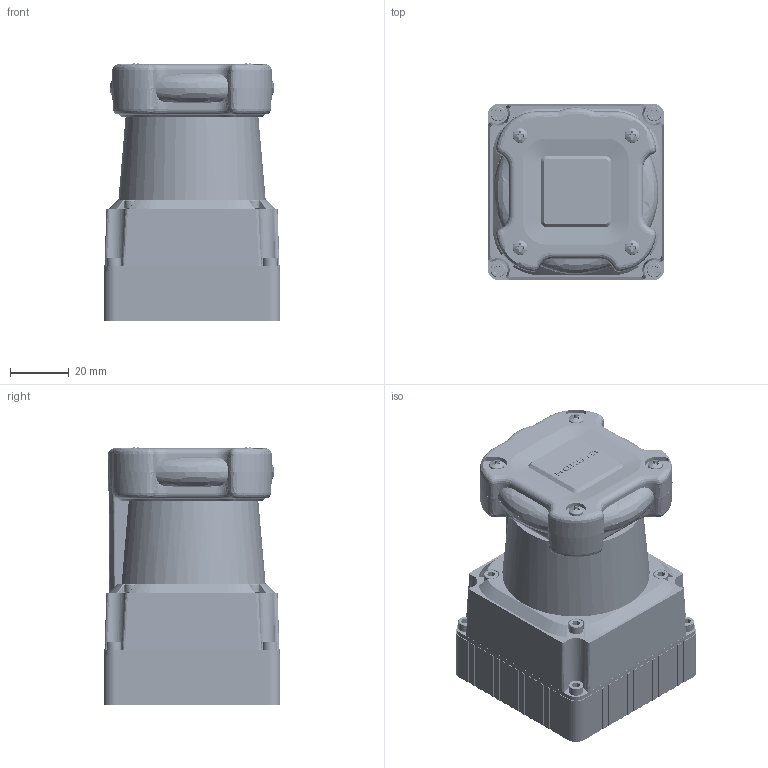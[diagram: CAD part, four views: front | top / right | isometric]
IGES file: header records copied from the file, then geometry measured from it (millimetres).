
Global section: file name: Hokuyo UTM-30LX; native system: unknown; preprocessor: unknown; author: unknown; organization: unknown; date: 20161208.124337; units: millimetre
Bounding box: 60 x 60 x 87.43 mm (x, y, z)
Volume: 75046.8 mm3; surface area: 100932.7 mm2
Topology: 40 solids, 40 shells, 1980 faces, 5270 edges, 3433 vertices
Faces by surface type: bspline 1980
